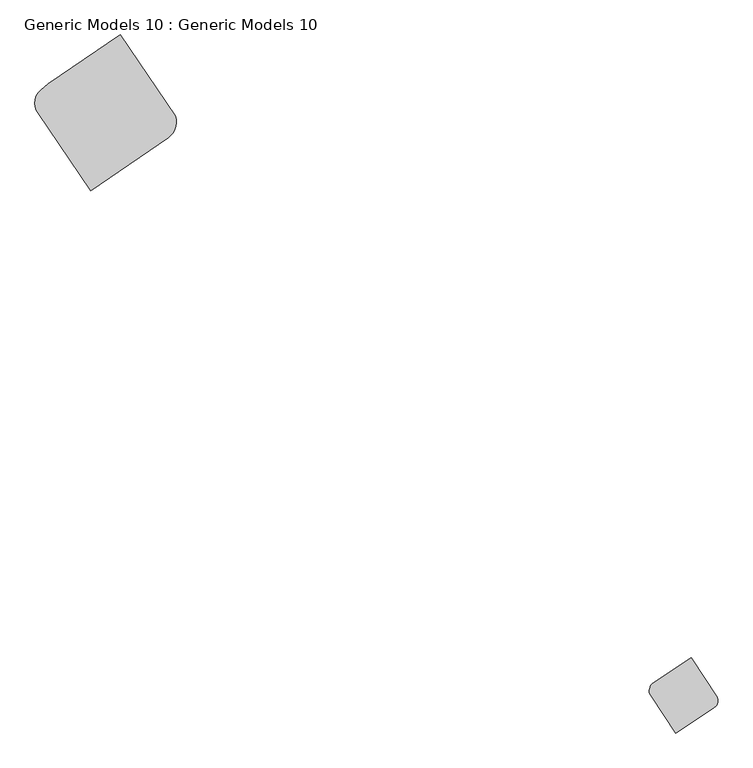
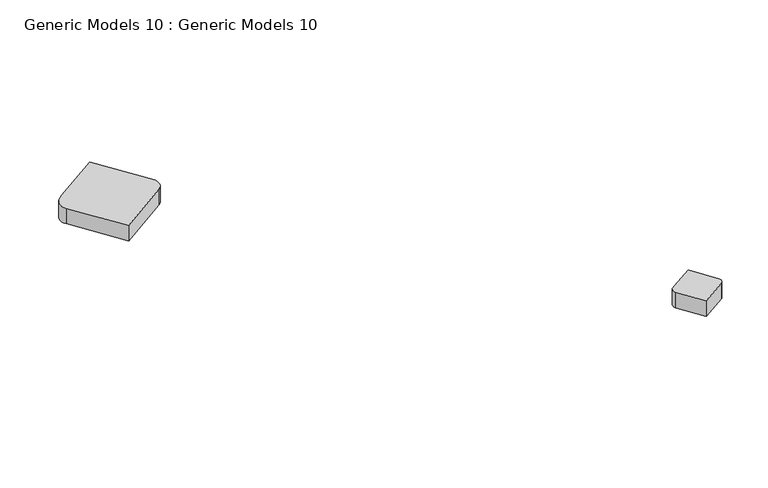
"""IFC4 building model written with IfcOpenShell, lengths in millimetres: proxy geometry, Generic Models 10 : Generic Models 10."""

from ifc_helpers import new_model, si_unit, point, frame, frame_2d, origin, place, context, project, spatial, polyline, circle_curve, trimmed, segment, composite_curve, outline, extrude, source, transform, mapped, element, save


def generic_models_10_generic_models_10_77a0b3e8(model_context):
    return source(origin(), model_context, "Body", "SweptSolid", [
        extrude(outline(composite_curve([segment(polyline([(926004.5513928, 35143.9466477), (927003.3503913, 33680.0762639)]), True, "CONTINUOUS"), segment(trimmed(circle_curve(frame_2d((926688.4385378, 33560.8105817)), 336.7399269), [point((927003.3503913, 33680.0762639))], [point((926878.2280505, 33282.6492629))], False, "CARTESIAN"), True, "CONTINUOUS"), segment(polyline([(926878.2280505, 33282.6492629), (925471.8321901, 32323.0651409), (924517.5405506, 33721.7041768)]), True, "CONTINUOUS"), segment(trimmed(circle_curve(frame_2d((924787.9450451, 33906.2012069)), 327.3495758), [point((924517.5405506, 33721.7041768))], [point((924563.9366913, 34144.9018608))], False, "CARTESIAN"), True, "CONTINUOUS"), segment(polyline([(924563.9366913, 34144.9018608), (924703.6885846, 34256.3677442), (926004.5513928, 35143.9466477)]), True, "CONTINUOUS")], self_intersect=False)), frame((0.0, 0.0, 6205.0588235), z_axis=(0.0, 0.0, 1.0), x_axis=(1.0, 0.0, 0.0)), (0.0, 0.0, 1.0), 457.6192287),
        extrude(outline(composite_curve([segment(polyline([(936355.4731151, 23852.4641091), (936829.2898926, 23135.3079335)]), True, "CONTINUOUS"), segment(trimmed(circle_curve(frame_2d((936675.7039177, 23079.7421381)), 163.3285318), [point((936829.2898926, 23135.3079335))], [point((936765.7375035, 22943.4697538))], False, "CARTESIAN"), True, "CONTINUOUS"), segment(polyline([(936765.7375035, 22943.4697538), (936076.7383354, 22488.2559849), (935624.0352488, 23173.4550525)]), True, "CONTINUOUS"), segment(trimmed(circle_curve(frame_2d((935756.5075328, 23260.9779559)), 158.7739419), [point((935624.0352488, 23173.4550525))], [point((935649.593586, 23378.3601207))], False, "CARTESIAN"), True, "CONTINUOUS"), segment(polyline([(935649.593586, 23378.3601207), (935718.1750272, 23431.4086451), (936355.4731151, 23852.4641091)]), True, "CONTINUOUS")], self_intersect=False)), frame((0.0, 0.0, 6205.0588235), z_axis=(0.0, 0.0, 1.0), x_axis=(1.0, 0.0, 0.0)), (0.0, 0.0, 1.0), 457.6192287),
    ])


if __name__ == "__main__":
    model = new_model("IFC4")
    model_context = context("Model", 3, world=origin())
    ifc_project = project(units=[si_unit("LENGTHUNIT", "METRE", prefix="MILLI")], contexts=[model_context])
    site = spatial("IfcSite", under=ifc_project)
    building = spatial("IfcBuilding", under=site)
    placement = place(None, origin())
    generic_models_10_generic_models_10_shape = generic_models_10_generic_models_10_77a0b3e8(model_context)
    element("IfcBuildingElementProxy", 1, Name="Generic Models 10 : Generic Models 10", ObjectType="Generic Models 10 : Generic Models 10", at=placement, inside=building, context=model_context, shape_type="MappedRepresentation", body=[
        mapped(generic_models_10_generic_models_10_shape, transform((0.0, 0.0, 0.0), x_axis=(1.0, 0.0, 0.0), y_axis=(0.0, 1.0, 0.0), z_axis=(0.0, 0.0, 1.0))),
    ])
    save(model, "model.ifc")
